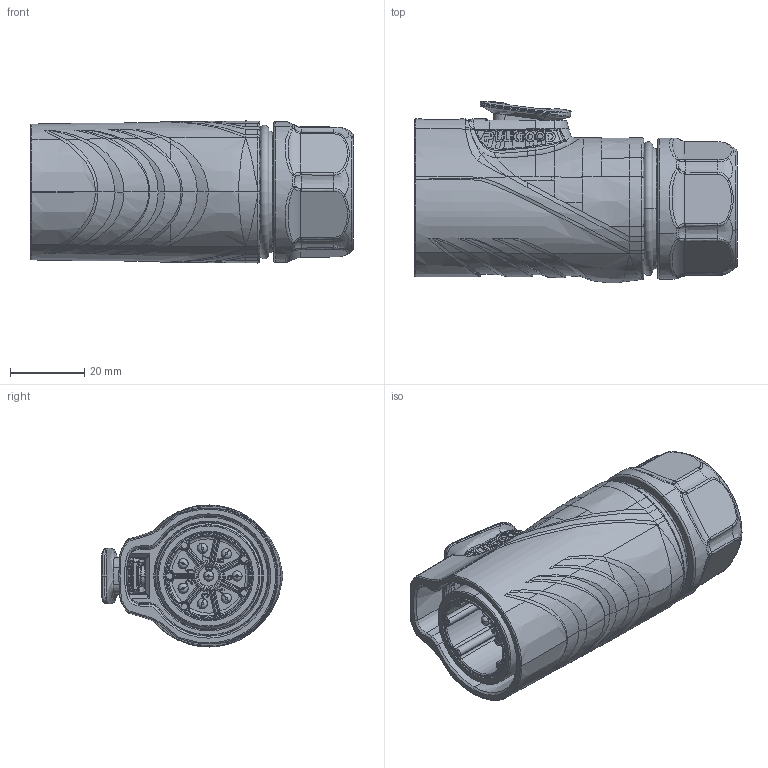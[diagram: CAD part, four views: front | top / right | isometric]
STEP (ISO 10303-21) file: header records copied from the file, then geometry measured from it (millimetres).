
FILE_DESCRIPTION (( 'STEP AP203' ), '1' );
FILE_NAME ('PLG28 8芯直头插头正装半金属(2.6).STEP', '2026-06-03T09:21:09', ( '微软用户' ), ( '微软中国' ), 'SwSTEP 2.0', 'SolidWorks 2024', '' );
FILE_SCHEMA (( 'CONFIG_CONTROL_DESIGN' ));
Products named in the file (1): PLG28 8芯直头插头正装半金属(2.6)
Bounding box: 87 x 49.02 x 38.3 mm (x, y, z)
Volume: 87031.1 mm3; surface area: 23745.8 mm2
Topology: 2 solids, 4 shells, 1644 faces, 4227 edges, 2571 vertices
Faces by surface type: bspline 804, plane 328, cylinder 326, torus 96, cone 70, sphere 20
Entity records: 142934 total; most frequent: CARTESIAN_POINT 109903, ORIENTED_EDGE 8326, DIRECTION 4633, EDGE_CURVE 4163, VERTEX_POINT 2571, B_SPLINE_CURVE_WITH_KNOTS 1994, AXIS2_PLACEMENT_3D 1771, EDGE_LOOP 1710
